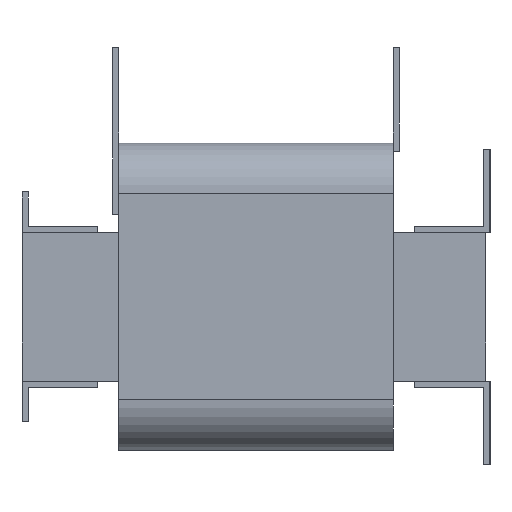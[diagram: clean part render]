
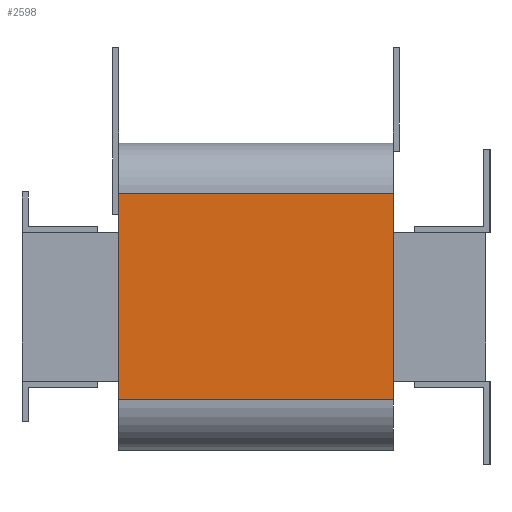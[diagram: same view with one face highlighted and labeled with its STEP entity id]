
A CAD part, left-side view. The second image highlights one B-rep face of the part: STEP entity #2598.
In plain terms, the highlighted planar face has unit normal (-1, 0, 0).
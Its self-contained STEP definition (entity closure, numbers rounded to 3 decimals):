
#102=PLANE('',#2804);
#231=FACE_OUTER_BOUND('',#381,.T.);
#381=EDGE_LOOP('',(#2166,#2167,#2168,#2169));
#630=LINE('',#4035,#948);
#649=LINE('',#4085,#967);
#650=LINE('',#4088,#968);
#651=LINE('',#4089,#969);
#948=VECTOR('',#3290,10.);
#967=VECTOR('',#3335,10.);
#968=VECTOR('',#3338,10.);
#969=VECTOR('',#3339,10.);
#1291=VERTEX_POINT('',#4032);
#1292=VERTEX_POINT('',#4034);
#1310=VERTEX_POINT('',#4083);
#1311=VERTEX_POINT('',#4087);
#1601=EDGE_CURVE('',#1291,#1292,#630,.T.);
#1627=EDGE_CURVE('',#1310,#1291,#649,.T.);
#1628=EDGE_CURVE('',#1310,#1311,#650,.T.);
#1629=EDGE_CURVE('',#1292,#1311,#651,.T.);
#2166=ORIENTED_EDGE('',*,*,#1627,.F.);
#2167=ORIENTED_EDGE('',*,*,#1628,.T.);
#2168=ORIENTED_EDGE('',*,*,#1629,.F.);
#2169=ORIENTED_EDGE('',*,*,#1601,.F.);
#2598=ADVANCED_FACE('',(#231),#102,.T.);
#2804=AXIS2_PLACEMENT_3D('',#4086,#3336,#3337);
#3290=DIRECTION('',(0.,0.,1.));
#3335=DIRECTION('',(0.,1.,0.));
#3336=DIRECTION('center_axis',(-1.,0.,0.));
#3337=DIRECTION('ref_axis',(0.,0.,1.));
#3338=DIRECTION('',(0.,0.,1.));
#3339=DIRECTION('',(0.,-1.,0.));
#4032=CARTESIAN_POINT('',(-174.,182.5,-45.5));
#4034=CARTESIAN_POINT('',(-174.,182.5,55.5));
#4035=CARTESIAN_POINT('',(-174.,182.5,-70.5));
#4083=CARTESIAN_POINT('',(-174.,47.5,-45.5));
#4085=CARTESIAN_POINT('',(-174.,47.5,-45.5));
#4086=CARTESIAN_POINT('Origin',(-174.,47.5,-70.5));
#4087=CARTESIAN_POINT('',(-174.,47.5,55.5));
#4088=CARTESIAN_POINT('',(-174.,47.5,-70.5));
#4089=CARTESIAN_POINT('',(-174.,47.5,55.5));
